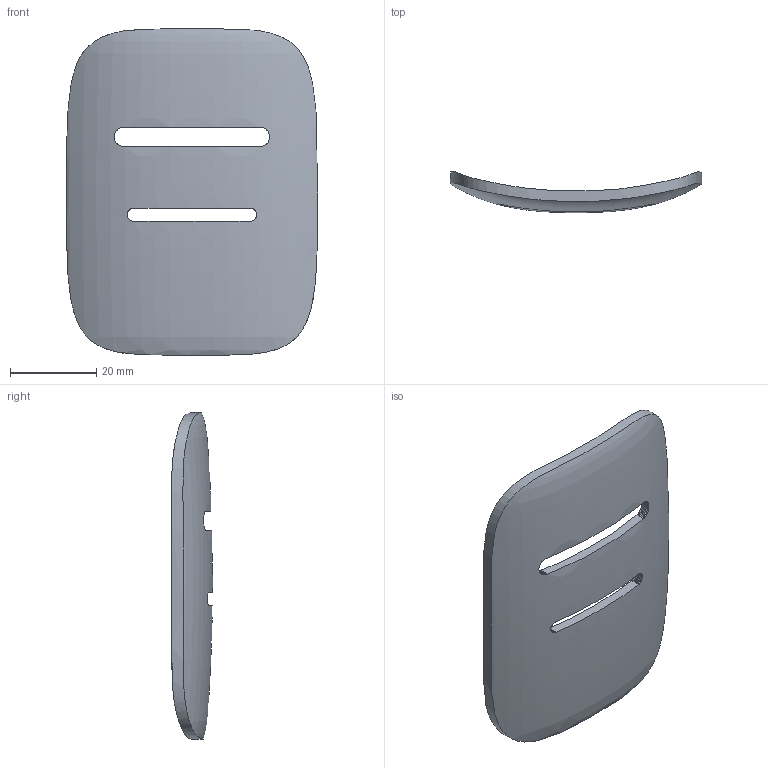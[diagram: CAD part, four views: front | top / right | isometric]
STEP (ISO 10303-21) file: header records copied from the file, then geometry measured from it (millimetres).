
FILE_DESCRIPTION(('Open CASCADE Model'),'2;1');
FILE_NAME('Open CASCADE Shape Model','2026-11-11T21:38:36',('Author'),( 'Open CASCADE'),'Open CASCADE STEP processor 8.0','build123d', 'Unknown');
FILE_SCHEMA(('AUTOMOTIVE_DESIGN { 1 0 10303 214 1 1 1 1 }'));
Products named in the file (1): SOLID
Bounding box: 58.14 x 9.5 x 75.5 mm (x, y, z)
Volume: 8585.6 mm3; surface area: 9134.7 mm2
Topology: 1 solids, 1 shells, 135 faces, 399 edges, 266 vertices
Faces by surface type: plane 132, bspline 2, offset 1
Entity records: 48415 total; most frequent: CARTESIAN_POINT 42796, B_SPLINE_CURVE_WITH_KNOTS 1195, ORIENTED_EDGE 798, PCURVE 798, DEFINITIONAL_REPRESENTATION 798, EDGE_CURVE 399, SURFACE_CURVE 398, DIRECTION 268
